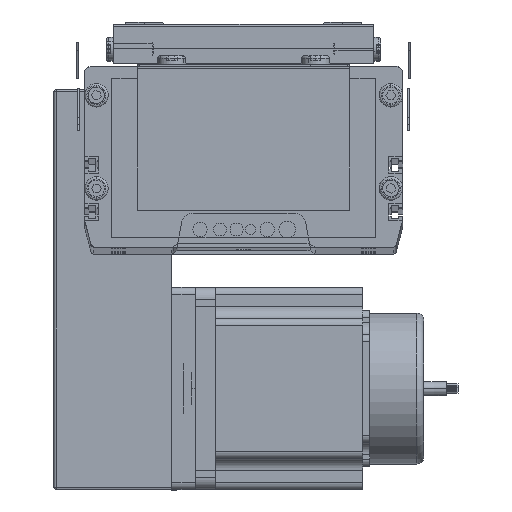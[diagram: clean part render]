
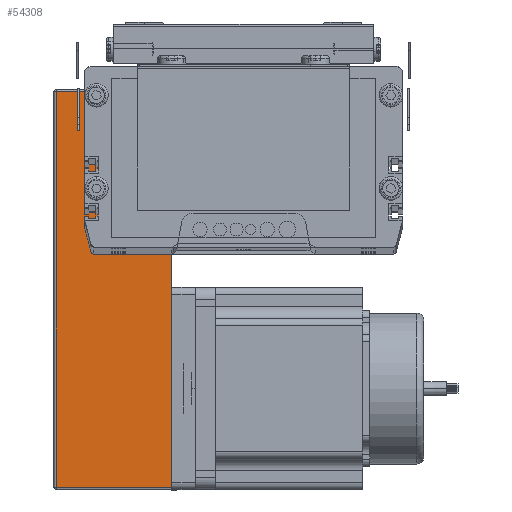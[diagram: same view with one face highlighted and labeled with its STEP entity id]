
A CAD part, top view. The second image highlights one B-rep face of the part: STEP entity #54308.
In plain terms, the highlighted planar face has unit normal (0, 0, 1) as drawn and (0, -1, 0) by its records, which use the part's own axes.
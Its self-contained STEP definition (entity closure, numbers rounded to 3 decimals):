
#27788 = DIRECTION ( 'NONE',  ( 1., 0., 0. ) ) ;
#28911 = VECTOR ( 'NONE', #27788, 1000. ) ;
#28912 = CARTESIAN_POINT ( 'NONE',  ( 0., 0., 0. ) ) ;
#28913 = LINE ( 'NONE', #28912, #28911 ) ;
#29030 = CARTESIAN_POINT ( 'NONE',  ( 169., 0., 0. ) ) ;
#29040 = DIRECTION ( 'NONE',  ( 1., 0., 0. ) ) ;
#29042 = VECTOR ( 'NONE', #29040, 1000. ) ;
#29043 = CARTESIAN_POINT ( 'NONE',  ( 0., 0., 0. ) ) ;
#29045 = LINE ( 'NONE', #29043, #29042 ) ;
#29051 = CARTESIAN_POINT ( 'NONE',  ( 85.9, 0., 0. ) ) ;
#29213 = DIRECTION ( 'NONE',  ( 1., 0., 0. ) ) ;
#29215 = VECTOR ( 'NONE', #29213, 1000. ) ;
#29217 = CARTESIAN_POINT ( 'NONE',  ( 0., 0., 0. ) ) ;
#29220 = LINE ( 'NONE', #29217, #29215 ) ;
#29286 = CARTESIAN_POINT ( 'NONE',  ( 1., 0., 0. ) ) ;
#29447 = DIRECTION ( 'NONE',  ( 0., 0., -1. ) ) ;
#29449 = VECTOR ( 'NONE', #29447, 1000. ) ;
#29450 = CARTESIAN_POINT ( 'NONE',  ( 1., 0., 50. ) ) ;
#29452 = LINE ( 'NONE', #29450, #29449 ) ;
#46424 = CARTESIAN_POINT ( 'NONE',  ( 10.902, 0., 0. ) ) ;
#46446 = CARTESIAN_POINT ( 'NONE',  ( 1., 0., 49. ) ) ;
#46492 = CARTESIAN_POINT ( 'NONE',  ( 5.418, 0., 0. ) ) ;
#46585 = CARTESIAN_POINT ( 'NONE',  ( 80.482, 0., 0. ) ) ;
#46599 = CARTESIAN_POINT ( 'NONE',  ( 74.998, 0., 0. ) ) ;
#54185 = EDGE_CURVE ( 'NONE', #54192, #54193, #29045, .T. ) ;
#54192 = VERTEX_POINT ( 'NONE', #29051 ) ;
#54193 = VERTEX_POINT ( 'NONE', #29030 ) ;
#54224 = ORIENTED_EDGE ( 'NONE', *, *, #54185, .T. ) ;
#54225 = ORIENTED_EDGE ( 'NONE', *, *, #54304, .T. ) ;
#54236 = EDGE_LOOP ( 'NONE', ( #54239, #54312, #54311, #54307, #54306, #54224, #54302, #54225, #54281 ) ) ;
#54238 = EDGE_CURVE ( 'NONE', #72957, #73004, #29220, .T. ) ;
#54239 = ORIENTED_EDGE ( 'NONE', *, *, #54310, .T. ) ;
#54262 = VERTEX_POINT ( 'NONE', #29286 ) ;
#54281 = ORIENTED_EDGE ( 'NONE', *, *, #54284, .T. ) ;
#54284 = EDGE_CURVE ( 'NONE', #72931, #54262, #29452, .T. ) ;
#54299 = EDGE_CURVE ( 'NONE', #73004, #73018, #28913, .T. ) ;
#54300 = EDGE_CURVE ( 'NONE', #73018, #54192, #75036, .T. ) ;
#54301 = EDGE_CURVE ( 'NONE', #54193, #54303, #75039, .T. ) ;
#54302 = ORIENTED_EDGE ( 'NONE', *, *, #54301, .T. ) ;
#54303 = VERTEX_POINT ( 'NONE', #75029 ) ;
#54304 = EDGE_CURVE ( 'NONE', #54303, #72931, #75026, .T. ) ;
#54306 = ORIENTED_EDGE ( 'NONE', *, *, #54300, .T. ) ;
#54307 = ORIENTED_EDGE ( 'NONE', *, *, #54299, .T. ) ;
#54308 = ADVANCED_FACE ( 'NONE', ( #75038 ), #75012, .F. ) ;
#54309 = EDGE_CURVE ( 'NONE', #72974, #72957, #75007, .T. ) ;
#54310 = EDGE_CURVE ( 'NONE', #54262, #72974, #75008, .T. ) ;
#54311 = ORIENTED_EDGE ( 'NONE', *, *, #54238, .T. ) ;
#54312 = ORIENTED_EDGE ( 'NONE', *, *, #54309, .T. ) ;
#72931 = VERTEX_POINT ( 'NONE', #46446 ) ;
#72957 = VERTEX_POINT ( 'NONE', #46424 ) ;
#72974 = VERTEX_POINT ( 'NONE', #46492 ) ;
#73004 = VERTEX_POINT ( 'NONE', #46599 ) ;
#73018 = VERTEX_POINT ( 'NONE', #46585 ) ;
#75001 = DIRECTION ( 'NONE',  ( 1., 0., 0. ) ) ;
#75002 = VECTOR ( 'NONE', #75001, 1000. ) ;
#75003 = CARTESIAN_POINT ( 'NONE',  ( 0., 0., 0. ) ) ;
#75005 = DIRECTION ( 'NONE',  ( 0., 0., 1. ) ) ;
#75007 = LINE ( 'NONE', #75003, #75002 ) ;
#75008 = LINE ( 'NONE', #75098, #75096 ) ;
#75010 = VECTOR ( 'NONE', #75015, 1000. ) ;
#75011 = DIRECTION ( 'NONE',  ( 0., 1., 0. ) ) ;
#75012 = PLANE ( 'NONE',  #75013 ) ;
#75013 = AXIS2_PLACEMENT_3D ( 'NONE', #75021, #75011, #75005 ) ;
#75015 = DIRECTION ( 'NONE',  ( -1., 0., 0. ) ) ;
#75016 = CARTESIAN_POINT ( 'NONE',  ( 0., 0., 49. ) ) ;
#75018 = DIRECTION ( 'NONE',  ( 0., 0., 1. ) ) ;
#75019 = VECTOR ( 'NONE', #75018, 1000. ) ;
#75021 = CARTESIAN_POINT ( 'NONE',  ( 0., 0., 50. ) ) ;
#75026 = LINE ( 'NONE', #75016, #75010 ) ;
#75028 = CARTESIAN_POINT ( 'NONE',  ( 169., 0., 50. ) ) ;
#75029 = CARTESIAN_POINT ( 'NONE',  ( 169., 0., 49. ) ) ;
#75030 = DIRECTION ( 'NONE',  ( 1., 0., 0. ) ) ;
#75032 = VECTOR ( 'NONE', #75030, 1000. ) ;
#75034 = CARTESIAN_POINT ( 'NONE',  ( 0., 0., 0. ) ) ;
#75036 = LINE ( 'NONE', #75034, #75032 ) ;
#75038 = FACE_OUTER_BOUND ( 'NONE', #54236, .T. ) ;
#75039 = LINE ( 'NONE', #75028, #75019 ) ;
#75095 = DIRECTION ( 'NONE',  ( 1., 0., 0. ) ) ;
#75096 = VECTOR ( 'NONE', #75095, 1000. ) ;
#75098 = CARTESIAN_POINT ( 'NONE',  ( 0., 0., 0. ) ) ;
